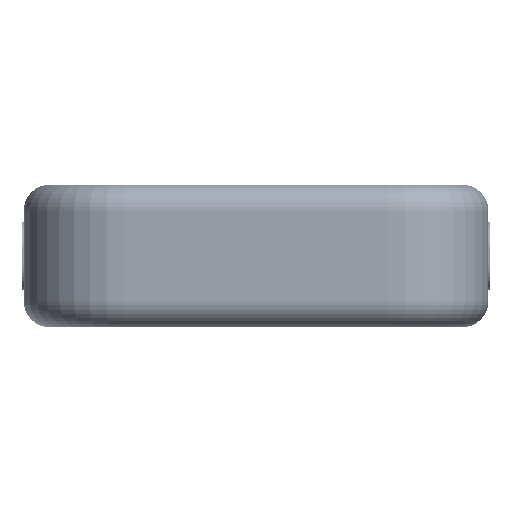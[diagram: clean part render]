
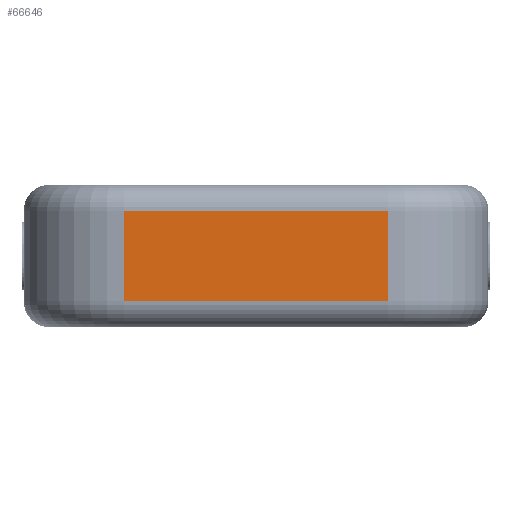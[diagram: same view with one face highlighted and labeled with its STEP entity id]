
A CAD part, front view. The second image highlights one B-rep face of the part: STEP entity #66646.
In plain terms, the highlighted planar face has unit normal (0, -1, 0).
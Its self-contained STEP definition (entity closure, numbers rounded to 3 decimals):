
#65481 = CYLINDRICAL_SURFACE('',#65482,19.);
#65482 = AXIS2_PLACEMENT_3D('',#65483,#65484,#65485);
#65483 = CARTESIAN_POINT('',(-25.,-49.,-13.5));
#65484 = DIRECTION('',(0.,0.,1.));
#65485 = DIRECTION('',(-1.,-0.,0.));
#65810 = VERTEX_POINT('',#65811);
#65811 = CARTESIAN_POINT('',(-25.,-68.,-8.5));
#65838 = EDGE_CURVE('',#65810,#65839,#65841,.T.);
#65839 = VERTEX_POINT('',#65840);
#65840 = CARTESIAN_POINT('',(-25.,-68.,8.5));
#65841 = SURFACE_CURVE('',#65842,(#65846,#65853),.PCURVE_S1.);
#65842 = LINE('',#65843,#65844);
#65843 = CARTESIAN_POINT('',(-25.,-68.,-13.5));
#65844 = VECTOR('',#65845,1.);
#65845 = DIRECTION('',(0.,0.,1.));
#65846 = PCURVE('',#65481,#65847);
#65847 = DEFINITIONAL_REPRESENTATION('',(#65848),#65852);
#65848 = LINE('',#65849,#65850);
#65849 = CARTESIAN_POINT('',(1.571,0.));
#65850 = VECTOR('',#65851,1.);
#65851 = DIRECTION('',(0.,1.));
#65852 = ( GEOMETRIC_REPRESENTATION_CONTEXT(2) 
PARAMETRIC_REPRESENTATION_CONTEXT() REPRESENTATION_CONTEXT('2D SPACE',''
  ) );
#65853 = PCURVE('',#65854,#65859);
#65854 = PLANE('',#65855);
#65855 = AXIS2_PLACEMENT_3D('',#65856,#65857,#65858);
#65856 = CARTESIAN_POINT('',(-44.,-68.,-13.5));
#65857 = DIRECTION('',(0.,1.,0.));
#65858 = DIRECTION('',(0.,-0.,1.));
#65859 = DEFINITIONAL_REPRESENTATION('',(#65860),#65864);
#65860 = LINE('',#65861,#65862);
#65861 = CARTESIAN_POINT('',(0.,19.));
#65862 = VECTOR('',#65863,1.);
#65863 = DIRECTION('',(1.,0.));
#65864 = ( GEOMETRIC_REPRESENTATION_CONTEXT(2) 
PARAMETRIC_REPRESENTATION_CONTEXT() REPRESENTATION_CONTEXT('2D SPACE',''
  ) );
#66549 = CYLINDRICAL_SURFACE('',#66550,5.);
#66550 = AXIS2_PLACEMENT_3D('',#66551,#66552,#66553);
#66551 = CARTESIAN_POINT('',(25.,-63.,-8.5));
#66552 = DIRECTION('',(-1.,-0.,-0.));
#66553 = DIRECTION('',(0.,-1.,0.));
#66636 = CYLINDRICAL_SURFACE('',#66637,5.);
#66637 = AXIS2_PLACEMENT_3D('',#66638,#66639,#66640);
#66638 = CARTESIAN_POINT('',(25.,-63.,8.5));
#66639 = DIRECTION('',(-1.,-0.,-0.));
#66640 = DIRECTION('',(0.,-1.,0.));
#66646 = ADVANCED_FACE('',(#66647),#65854,.F.);
#66647 = FACE_BOUND('',#66648,.F.);
#66648 = EDGE_LOOP('',(#66649,#66650,#66673,#66701));
#66649 = ORIENTED_EDGE('',*,*,#65838,.T.);
#66650 = ORIENTED_EDGE('',*,*,#66651,.F.);
#66651 = EDGE_CURVE('',#66652,#65839,#66654,.T.);
#66652 = VERTEX_POINT('',#66653);
#66653 = CARTESIAN_POINT('',(25.,-68.,8.5));
#66654 = SURFACE_CURVE('',#66655,(#66659,#66666),.PCURVE_S1.);
#66655 = LINE('',#66656,#66657);
#66656 = CARTESIAN_POINT('',(25.,-68.,8.5));
#66657 = VECTOR('',#66658,1.);
#66658 = DIRECTION('',(-1.,-0.,-0.));
#66659 = PCURVE('',#65854,#66660);
#66660 = DEFINITIONAL_REPRESENTATION('',(#66661),#66665);
#66661 = LINE('',#66662,#66663);
#66662 = CARTESIAN_POINT('',(22.,69.));
#66663 = VECTOR('',#66664,1.);
#66664 = DIRECTION('',(0.,-1.));
#66665 = ( GEOMETRIC_REPRESENTATION_CONTEXT(2) 
PARAMETRIC_REPRESENTATION_CONTEXT() REPRESENTATION_CONTEXT('2D SPACE',''
  ) );
#66666 = PCURVE('',#66636,#66667);
#66667 = DEFINITIONAL_REPRESENTATION('',(#66668),#66672);
#66668 = LINE('',#66669,#66670);
#66669 = CARTESIAN_POINT('',(0.,0.));
#66670 = VECTOR('',#66671,1.);
#66671 = DIRECTION('',(0.,1.));
#66672 = ( GEOMETRIC_REPRESENTATION_CONTEXT(2) 
PARAMETRIC_REPRESENTATION_CONTEXT() REPRESENTATION_CONTEXT('2D SPACE',''
  ) );
#66673 = ORIENTED_EDGE('',*,*,#66674,.F.);
#66674 = EDGE_CURVE('',#66675,#66652,#66677,.T.);
#66675 = VERTEX_POINT('',#66676);
#66676 = CARTESIAN_POINT('',(25.,-68.,-8.5));
#66677 = SURFACE_CURVE('',#66678,(#66682,#66689),.PCURVE_S1.);
#66678 = LINE('',#66679,#66680);
#66679 = CARTESIAN_POINT('',(25.,-68.,-13.5));
#66680 = VECTOR('',#66681,1.);
#66681 = DIRECTION('',(0.,0.,1.));
#66682 = PCURVE('',#65854,#66683);
#66683 = DEFINITIONAL_REPRESENTATION('',(#66684),#66688);
#66684 = LINE('',#66685,#66686);
#66685 = CARTESIAN_POINT('',(0.,69.));
#66686 = VECTOR('',#66687,1.);
#66687 = DIRECTION('',(1.,0.));
#66688 = ( GEOMETRIC_REPRESENTATION_CONTEXT(2) 
PARAMETRIC_REPRESENTATION_CONTEXT() REPRESENTATION_CONTEXT('2D SPACE',''
  ) );
#66689 = PCURVE('',#66690,#66695);
#66690 = CYLINDRICAL_SURFACE('',#66691,19.);
#66691 = AXIS2_PLACEMENT_3D('',#66692,#66693,#66694);
#66692 = CARTESIAN_POINT('',(25.,-49.,-13.5));
#66693 = DIRECTION('',(0.,0.,1.));
#66694 = DIRECTION('',(1.,0.,-0.));
#66695 = DEFINITIONAL_REPRESENTATION('',(#66696),#66700);
#66696 = LINE('',#66697,#66698);
#66697 = CARTESIAN_POINT('',(4.712,0.));
#66698 = VECTOR('',#66699,1.);
#66699 = DIRECTION('',(-0.,1.));
#66700 = ( GEOMETRIC_REPRESENTATION_CONTEXT(2) 
PARAMETRIC_REPRESENTATION_CONTEXT() REPRESENTATION_CONTEXT('2D SPACE',''
  ) );
#66701 = ORIENTED_EDGE('',*,*,#66702,.T.);
#66702 = EDGE_CURVE('',#66675,#65810,#66703,.T.);
#66703 = SURFACE_CURVE('',#66704,(#66708,#66715),.PCURVE_S1.);
#66704 = LINE('',#66705,#66706);
#66705 = CARTESIAN_POINT('',(25.,-68.,-8.5));
#66706 = VECTOR('',#66707,1.);
#66707 = DIRECTION('',(-1.,-0.,-0.));
#66708 = PCURVE('',#65854,#66709);
#66709 = DEFINITIONAL_REPRESENTATION('',(#66710),#66714);
#66710 = LINE('',#66711,#66712);
#66711 = CARTESIAN_POINT('',(5.,69.));
#66712 = VECTOR('',#66713,1.);
#66713 = DIRECTION('',(0.,-1.));
#66714 = ( GEOMETRIC_REPRESENTATION_CONTEXT(2) 
PARAMETRIC_REPRESENTATION_CONTEXT() REPRESENTATION_CONTEXT('2D SPACE',''
  ) );
#66715 = PCURVE('',#66549,#66716);
#66716 = DEFINITIONAL_REPRESENTATION('',(#66717),#66721);
#66717 = LINE('',#66718,#66719);
#66718 = CARTESIAN_POINT('',(6.283,0.));
#66719 = VECTOR('',#66720,1.);
#66720 = DIRECTION('',(-0.,1.));
#66721 = ( GEOMETRIC_REPRESENTATION_CONTEXT(2) 
PARAMETRIC_REPRESENTATION_CONTEXT() REPRESENTATION_CONTEXT('2D SPACE',''
  ) );
